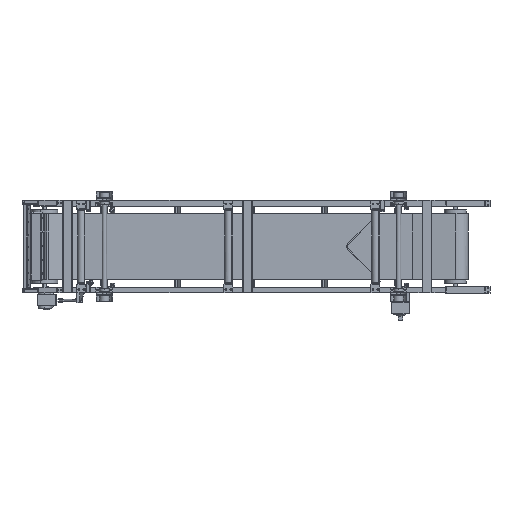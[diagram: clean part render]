
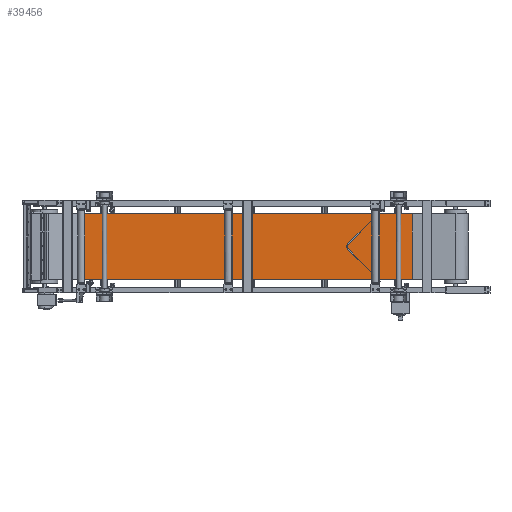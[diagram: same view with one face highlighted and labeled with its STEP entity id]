
A CAD part, front view. The second image highlights one B-rep face of the part: STEP entity #39456.
In plain terms, the highlighted free-form (B-spline) face has degree [1, 1] with [2, 2] control points.
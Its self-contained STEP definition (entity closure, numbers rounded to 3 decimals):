
#6069 = CARTESIAN_POINT ( 'NONE',  ( 400., -245., -450. ) ) ;
#16655 = CARTESIAN_POINT ( 'NONE',  ( 400., -245., -4499.598 ) ) ;
#17349 = CARTESIAN_POINT ( 'NONE',  ( -400., -245., -450. ) ) ;
#24414 = VERTEX_POINT ( 'NONE', #110897 ) ;
#30593 = VERTEX_POINT ( 'NONE', #103516 ) ;
#33085 = ORIENTED_EDGE ( 'NONE', *, *, #104989, .T. ) ;
#39456 = ADVANCED_FACE ( 'NONE', ( #91170 ), #109301, .T. ) ;
#42083 = EDGE_CURVE ( 'NONE', #101198, #24414, #56390, .T. ) ;
#45707 = CARTESIAN_POINT ( 'NONE',  ( -400., -245., -4499.598 ) ) ;
#46624 = CARTESIAN_POINT ( 'NONE',  ( 400., -245., -4499.598 ) ) ;
#47760 = CARTESIAN_POINT ( 'NONE',  ( 400., -245., -4499.598 ) ) ;
#48871 = B_SPLINE_CURVE_WITH_KNOTS ( 'NONE', 1,
 ( #79918, #46624 ),
 .UNSPECIFIED., .F., .F.,
 ( 2, 2 ),
 ( 0., 1. ),
 .UNSPECIFIED. ) ;
#51549 = EDGE_LOOP ( 'NONE', ( #76603, #33085, #104711, #54210 ) ) ;
#51889 = B_SPLINE_CURVE_WITH_KNOTS ( 'NONE', 1,
 ( #64932, #45707 ),
 .UNSPECIFIED., .F., .F.,
 ( 2, 2 ),
 ( -1., 0. ),
 .UNSPECIFIED. ) ;
#54210 = ORIENTED_EDGE ( 'NONE', *, *, #58417, .F. ) ;
#56390 = B_SPLINE_CURVE_WITH_KNOTS ( 'NONE', 1,
 ( #47760, #120112 ),
 .UNSPECIFIED., .F., .F.,
 ( 2, 2 ),
 ( -1., 0. ),
 .UNSPECIFIED. ) ;
#57620 = EDGE_CURVE ( 'NONE', #30593, #80099, #121686, .T. ) ;
#58417 = EDGE_CURVE ( 'NONE', #30593, #101198, #48871, .T. ) ;
#64932 = CARTESIAN_POINT ( 'NONE',  ( -400., -245., -450. ) ) ;
#67563 = CARTESIAN_POINT ( 'NONE',  ( -400., -245., -450. ) ) ;
#76603 = ORIENTED_EDGE ( 'NONE', *, *, #57620, .T. ) ;
#79918 = CARTESIAN_POINT ( 'NONE',  ( 400., -245., -450. ) ) ;
#80099 = VERTEX_POINT ( 'NONE', #124535 ) ;
#91170 = FACE_OUTER_BOUND ( 'NONE', #51549, .T. ) ;
#97359 = CARTESIAN_POINT ( 'NONE',  ( 400., -245., -450. ) ) ;
#101198 = VERTEX_POINT ( 'NONE', #129470 ) ;
#103516 = CARTESIAN_POINT ( 'NONE',  ( 400., -245., -450. ) ) ;
#104711 = ORIENTED_EDGE ( 'NONE', *, *, #42083, .F. ) ;
#104989 = EDGE_CURVE ( 'NONE', #80099, #24414, #51889, .T. ) ;
#109301 = B_SPLINE_SURFACE_WITH_KNOTS ( 'NONE', 1, 1, ( 
 ( #135806, #17349 ),
 ( #16655, #6069 ) ),
 .UNSPECIFIED., .F., .F., .F.,
 ( 2, 2 ),
 ( 2, 2 ),
 ( 0., 1. ),
 ( 0., 1. ),
 .UNSPECIFIED. ) ;
#110897 = CARTESIAN_POINT ( 'NONE',  ( -400., -245., -4499.598 ) ) ;
#120112 = CARTESIAN_POINT ( 'NONE',  ( -400., -245., -4499.598 ) ) ;
#121686 = B_SPLINE_CURVE_WITH_KNOTS ( 'NONE', 1,
 ( #97359, #67563 ),
 .UNSPECIFIED., .F., .F.,
 ( 2, 2 ),
 ( -1., 0. ),
 .UNSPECIFIED. ) ;
#124535 = CARTESIAN_POINT ( 'NONE',  ( -400., -245., -450. ) ) ;
#129470 = CARTESIAN_POINT ( 'NONE',  ( 400., -245., -4499.598 ) ) ;
#135806 = CARTESIAN_POINT ( 'NONE',  ( -400., -245., -4499.598 ) ) ;
